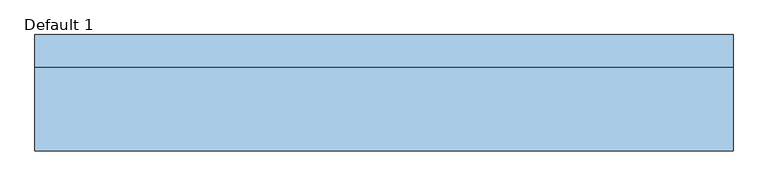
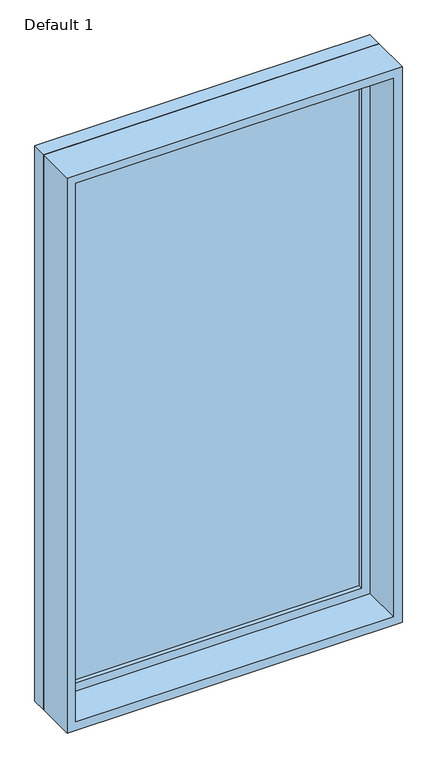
"""IFC4 building model written with IfcOpenShell, lengths in millimetres: window geometry, Planitar-Fixed : Default 1."""

from ifc_helpers import new_model, si_unit, frame, origin, place, context, project, spatial, polyline, outline, extrude, source, transform, mapped, element, save


def default_1_8900c659(model_context):
    return source(origin(), model_context, "Body", "SweptSolid", [
        extrude(outline(polyline([(3029.0, -590.593153), (933.4, -590.593153), (933.4, 590.593153), (3029.0, 590.593153), (3029.0, -590.593153)]), holes=[polyline([(2985.0, -546.593153), (2985.0, 546.593153), (977.4, 546.593153), (977.4, -546.593153), (2985.0, -546.593153)])]), frame((0.0, 57.9, 0.0), z_axis=(0.0, 1.0, 0.0), x_axis=(0.0, 0.0, 1.0)), (0.0, 0.0, 1.0), 44.0),
        extrude(outline(polyline([(3048.0, -609.593153), (914.4, -609.593153), (914.4, 609.593153), (3048.0, 609.593153), (3048.0, -609.593153)]), holes=[polyline([(3029.0, -590.593153), (3029.0, 590.593153), (933.4, 590.593153), (933.4, -590.593153), (3029.0, -590.593153)])]), frame((0.0, 57.9, 0.0), z_axis=(0.0, 1.0, 0.0), x_axis=(0.0, 0.0, 1.0)), (0.0, 0.0, 1.0), 56.7),
        extrude(outline(polyline([(3048.0, -609.593153), (914.4, -609.593153), (914.4, 609.593153), (3048.0, 609.593153), (3048.0, -609.593153)]), holes=[polyline([(3016.0, -577.593153), (3016.0, 577.593153), (946.4, 577.593153), (946.4, -577.593153), (3016.0, -577.593153)])]), frame((0.0, -88.6, 0.0), z_axis=(0.0, 1.0, 0.0), x_axis=(0.0, 0.0, 1.0)), (0.0, 0.0, 1.0), 146.5),
        extrude(outline(polyline([(-546.593153, 85.9), (546.593153, 85.9), (546.593153, 73.9), (-546.593153, 73.9), (-546.593153, 85.9)])), frame((0.0, 0.0, 977.4), z_axis=(0.0, 0.0, 1.0), x_axis=(1.0, 0.0, 0.0)), (0.0, 0.0, 1.0), 2007.6),
    ])


if __name__ == "__main__":
    model = new_model("IFC4")
    model_context = context("Model", 3, world=origin())
    ifc_project = project(units=[si_unit("LENGTHUNIT", "METRE", prefix="MILLI")], contexts=[model_context])
    site = spatial("IfcSite", under=ifc_project)
    building = spatial("IfcBuilding", under=site)
    placement = place(None, origin())
    default_1_shape = default_1_8900c659(model_context)
    element("IfcWindow", 1, ObjectType="Planitar-Fixed : Default 1", at=placement, inside=building, context=model_context, shape_type="MappedRepresentation", body=[
        mapped(default_1_shape, transform((0.0, 0.0, 0.0), x_axis=(1.0, 0.0, 0.0), y_axis=(0.0, 1.0, 0.0), z_axis=(0.0, 0.0, 1.0))),
    ])
    save(model, "model.ifc")
